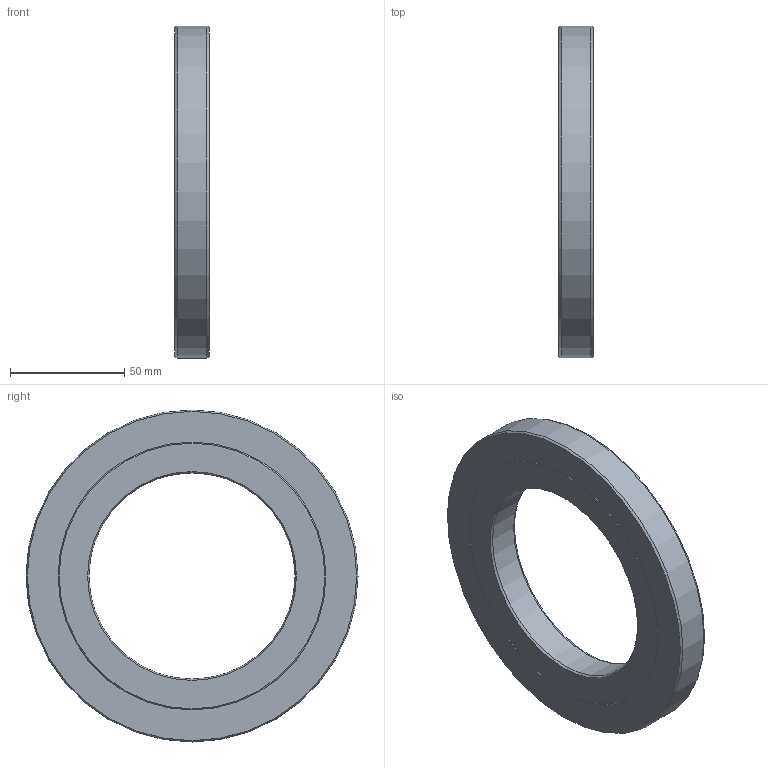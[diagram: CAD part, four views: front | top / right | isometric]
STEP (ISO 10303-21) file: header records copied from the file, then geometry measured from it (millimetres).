
FILE_DESCRIPTION(/* description */ (''),/* implementation_level */ '2;1');
FILE_NAME(/* name */ '301968 SA 90x145x15.stp',/* time_stamp */ '2016-12-16T16:02:11+01:00',/* author */ (''),/* organization */ (''),/* preprocessor_version */ 'ST-DEVELOPER v15',/* originating_system */ 'SIEMENS PLM Software NX 8.5',/* authorisation */ '');
FILE_SCHEMA (('CONFIG_CONTROL_DESIGN'));
Length unit declared in the file: millimetre
Products named in the file (1): ATE0000144_01
Bounding box: 15 x 145 x 145 mm (x, y, z)
Volume: 148683.9 mm3; surface area: 45003.9 mm2
Topology: 2 solids, 2 shells, 18 faces, 37 edges, 23 vertices
Faces by surface type: cone 10, plane 5, cylinder 3
Full cylindrical faces by diameter (mm): 90 x1, 145 x1
Entity records: 496 total; most frequent: CARTESIAN_POINT 78, DIRECTION 76, ORIENTED_EDGE 46, AXIS2_PLACEMENT_3D 38, EDGE_LOOP 33, FACE_BOUND 30, EDGE_CURVE 23, VERTEX_POINT 20
